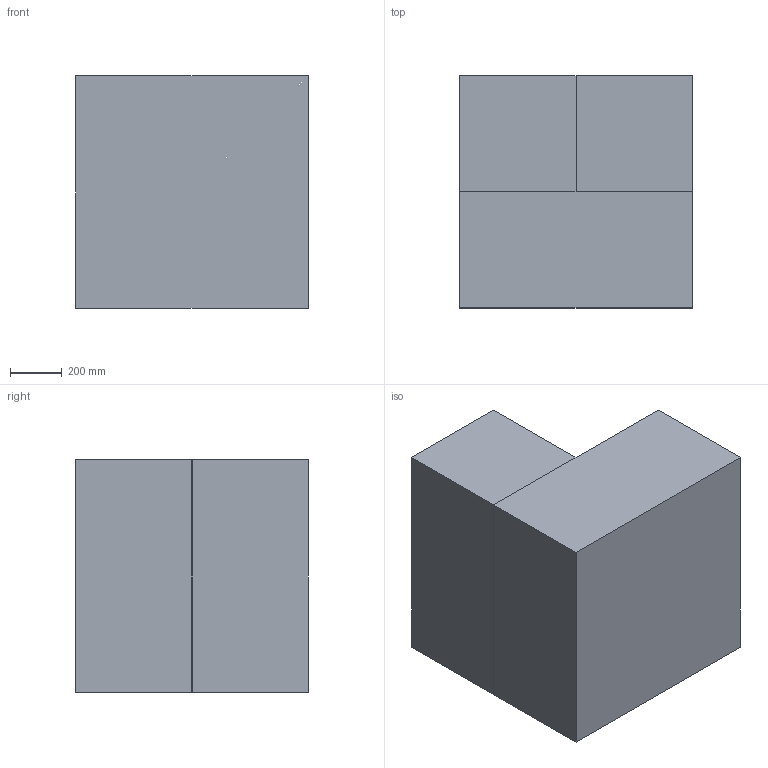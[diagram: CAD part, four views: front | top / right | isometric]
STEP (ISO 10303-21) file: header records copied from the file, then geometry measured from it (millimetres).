
FILE_DESCRIPTION (( 'STEP AP203' ), '1' );
FILE_NAME ('Type D.STEP', '2019-01-15T13:57:01', ( '' ), ( '' ), 'SwSTEP 2.0', 'SolidWorks 2019', '' );
FILE_SCHEMA (( 'CONFIG_CONTROL_DESIGN' ));
Length unit declared in the file: millimetre
Products named in the file (3): Type D; Extrabox Type C_Domy˜lna; Extrabox Type D_Domy˜lna
Assembly tree (2 placements, depth 2):
  Type D
    Extrabox Type D_Domy˜lna
    Extrabox Type C_Domy˜lna
Bounding box: 900 x 900 x 900 mm (x, y, z)
Volume: 637875000 mm3; surface area: 6075000 mm2
Topology: 2 solids, 2 shells, 14 faces, 30 edges, 20 vertices
Faces by surface type: plane 14
Entity records: 679 total; most frequent: CARTESIAN_POINT 69, DIRECTION 68, ORIENTED_EDGE 60, VECTOR 30, EDGE_CURVE 30, LINE 30, PERSON_AND_ORGANIZATION 26, VERTEX_POINT 20
